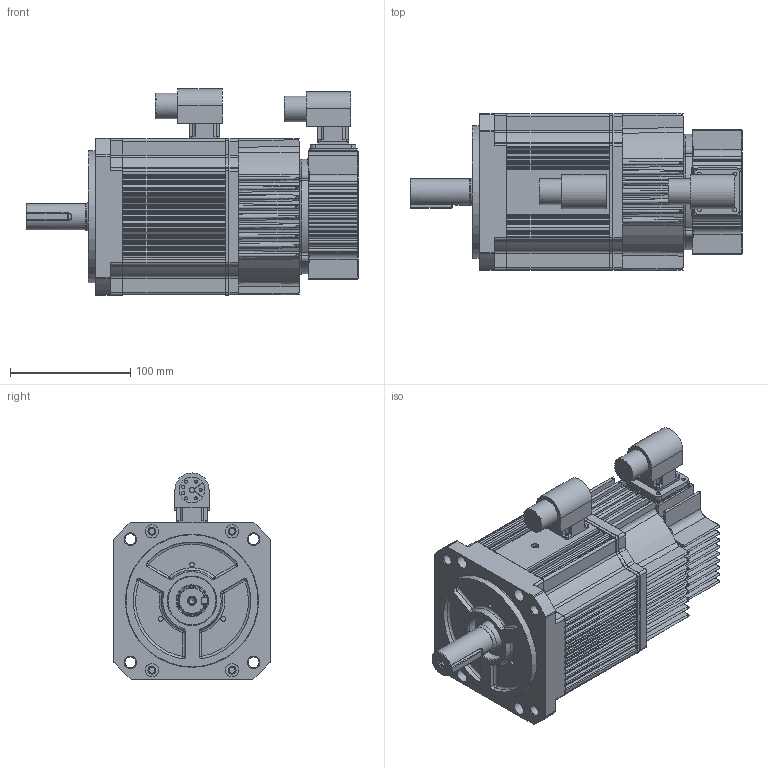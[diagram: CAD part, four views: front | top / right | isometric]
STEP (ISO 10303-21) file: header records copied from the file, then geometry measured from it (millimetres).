
FILE_DESCRIPTION( ( 'Unknown' ), '1' );
FILE_NAME( 'C:/Documents and Settings/chasechiu/桌面/2D&3D帶煞/DTSB13102B3/DTSB13102B3BG3D0K & DTSB13102B-380V機種 & DTSB13152C3BG3D0K.stp', 'Unknown', ( 'Unknown' ), ( 'Unknown' ), 'PSStep 14.0', 'Unknown', ' ' );
FILE_SCHEMA( ( 'AUTOMOTIVE_DESIGN { 1 0 10303 214 1 1 1 1 }' ) );
Length unit declared in the file: millimetre
Products named in the file (14): 0S180JXB7BA0P-01_0; 0S331JXA0BP01-01_0; Assem1; 0S302J0A1BP01-01_0; 0S363JD0584BP-01_0; ___(_擗); ___(___δ_; 0S861JA152111-02; \X2\50C5524D7AEF542B937569FD8EF\X0\; \X2\51F8625867B\X0\; \X2\4FDD84C\X0\; 1KW\X2\4EE54E0A752853F05EA\X0\; \X2\8ECD898F96326C34588A724\X0\; \X2\937\X0\
Assembly tree (13 placements, depth 3):
  Assem1
    0S302J0A1BP01-01_0
    0S363JD0584BP-01_0
    ___(_擗)
    ___(___δ_
    0S861JA152111-02
    \X2\50C5524D7AEF542B937569FD8EF\X0\
    \X2\51F8625867B\X0\
    \X2\4FDD84C\X0\
    1KW\X2\4EE54E0A752853F05EA\X0\
    \X2\8ECD898F96326C34588A724\X0\
    \X2\937\X0\
    0S180JXB7BA0P-01_0
      0S331JXA0BP01-01_0
Bounding box: 276.3 x 130.4 x 171.6 mm (x, y, z)
Volume: 2959967.6 mm3; surface area: 358720.4 mm2
Topology: 12 solids, 12 shells, 1747 faces, 4627 edges, 2968 vertices
Faces by surface type: cylinder 773, plane 663, torus 147, bspline 78, cone 66, sphere 20
Full cylindrical faces by diameter (mm): 1.5 x17, 1.926 x2, 1.985 x1, 2.013 x4, 2.4 x2, 2.459 x6, 2.5 x4, 2.585 x2, 2.611 x2, 2.621 x4, 2.637 x1, 2.7 x8, 2.834 x2, 3 x4, 3.25 x4, 3.5 x8, 3.746 x1, 4 x3, 4.134 x3, 5 x9, 6 x2, 6.2 x1, 6.5 x12, 9 x4, 11 x4, 20 x2, 21.5 x2, 22 x1, 24 x1, 24.9 x1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
Entity records: 76411 total; most frequent: CARTESIAN_POINT 19342, DIRECTION 9247, ORIENTED_EDGE 8732, EDGE_CURVE 4366, AXIS2_PLACEMENT_3D 3626, VERTEX_POINT 2897, EDGE_LOOP 2089, LINE 1995
